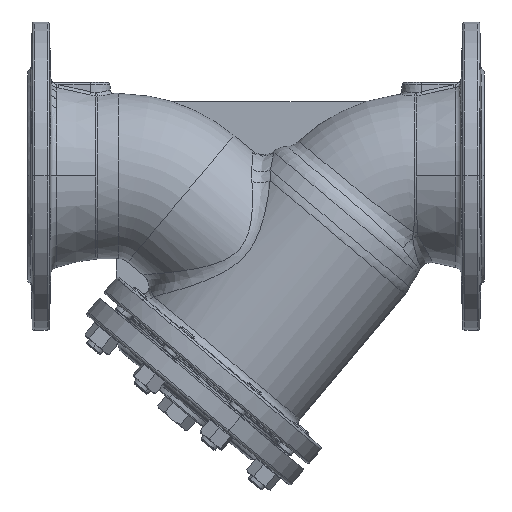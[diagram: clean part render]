
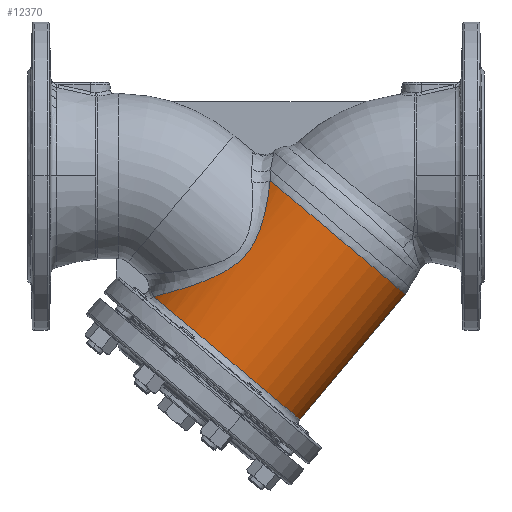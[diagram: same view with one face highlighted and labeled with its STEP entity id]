
A CAD part, top view. The second image highlights one B-rep face of the part: STEP entity #12370.
In plain terms, the highlighted cylindrical face has radius 86 mm (diameter 172 mm), a partial arc.
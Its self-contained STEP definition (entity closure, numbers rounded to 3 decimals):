
#4342 = B_SPLINE_CURVE_WITH_KNOTS ( 'NONE', 3,
 ( #31250, #33126, #33130, #33131, #33132, #33133, #33134, #33135, #33136, #33137, #33138, #33139, #33140, #33141, #33142, #33143, #33144, #33145, #33146, #33147, #33148, #33149, #33150, #33151, #33152, #33153, #33154, #33155, #33156, #33157, #33158, #33159, #33160, #33161, #33162, #33163, #33164, #33165, #33166, #33167, #33168, #33169, #33170, #33171, #33172, #33173, #33174, #33175, #33176, #33177, #33178, #33179, #33180, #33181, #33182, #33183, #33184, #33185 ),
 .UNSPECIFIED., .F., .F.,
 ( 4, 2, 2, 2, 2, 2, 2, 2, 2, 2, 2, 2, 2, 2, 2, 2, 2, 2, 2, 2, 2, 2, 2, 2, 2, 2, 2, 2, 4 ),
 ( 0., 0.011, 0.022, 0.033, 0.036, 0.039, 0.045, 0.05, 0.053, 0.056, 0.067, 0.07, 0.072, 0.078, 0.084, 0.089, 0.1, 0.106, 0.111, 0.123, 0.134, 0.139, 0.142, 0.145, 0.156, 0.167, 0.17, 0.173, 0.178 ),
 .UNSPECIFIED. ) ;
#5209 = CARTESIAN_POINT ( 'NONE',  ( 110.251, -105.6, 28.02 ) ) ;
#5210 = CARTESIAN_POINT ( 'NONE',  ( 238.416, -213.143, 0. ) ) ;
#5211 = CARTESIAN_POINT ( 'NONE',  ( 330.593, -103.291, 0. ) ) ;
#5212 = CARTESIAN_POINT ( 'NONE',  ( 212.413, -4.126, 52.294 ) ) ;
#6773 = EDGE_LOOP ( 'NONE', ( #8521, #8522, #8523, #8524 ) ) ;
#7751 = AXIS2_PLACEMENT_3D ( 'NONE', #15213, #15207, #15211 ) ;
#8521 = ORIENTED_EDGE ( 'NONE', *, *, #13519, .T. ) ;
#8522 = ORIENTED_EDGE ( 'NONE', *, *, #13517, .T. ) ;
#8523 = ORIENTED_EDGE ( 'NONE', *, *, #13512, .T. ) ;
#8524 = ORIENTED_EDGE ( 'NONE', *, *, #13521, .T. ) ;
#12370 = ADVANCED_FACE ( 'NONE', ( #39418 ), #39420, .T. ) ;
#12619 = VERTEX_POINT ( 'NONE', #5209 ) ;
#12620 = VERTEX_POINT ( 'NONE', #5210 ) ;
#12621 = VERTEX_POINT ( 'NONE', #5211 ) ;
#12622 = VERTEX_POINT ( 'NONE', #5212 ) ;
#13512 = EDGE_CURVE ( 'NONE', #12621, #12622, #22313, .T. ) ;
#13517 = EDGE_CURVE ( 'NONE', #12620, #12621, #22306, .T. ) ;
#13519 = EDGE_CURVE ( 'NONE', #12619, #12620, #22322, .T. ) ;
#13521 = EDGE_CURVE ( 'NONE', #12622, #12619, #4342, .T. ) ;
#15207 = DIRECTION ( 'NONE',  ( 0.643, 0.766, 0. ) ) ;
#15211 = DIRECTION ( 'NONE',  ( 0.766, -0.643, 0. ) ) ;
#15213 = CARTESIAN_POINT ( 'NONE',  ( 305., 0., 0. ) ) ;
#15568 = AXIS2_PLACEMENT_3D ( 'NONE', #31304, #31307, #31308 ) ;
#15572 = AXIS2_PLACEMENT_3D ( 'NONE', #30864, #30867, #30868 ) ;
#22306 = LINE ( 'NONE', #31251, #22318 ) ;
#22313 = CIRCLE ( 'NONE', #15572, 86. ) ;
#22318 = VECTOR ( 'NONE', #31252, 1000. ) ;
#22322 = CIRCLE ( 'NONE', #15568, 86. ) ;
#30864 = CARTESIAN_POINT ( 'NONE',  ( 264.714, -48.011, 0. ) ) ;
#30867 = DIRECTION ( 'NONE',  ( -0.643, -0.766, 0. ) ) ;
#30868 = DIRECTION ( 'NONE',  ( -0.766, 0.643, 0. ) ) ;
#31250 = CARTESIAN_POINT ( 'NONE',  ( 212.413, -4.126, 52.294 ) ) ;
#31251 = CARTESIAN_POINT ( 'NONE',  ( 370.88, -55.28, 0. ) ) ;
#31252 = DIRECTION ( 'NONE',  ( 0.643, 0.766, 0. ) ) ;
#31304 = CARTESIAN_POINT ( 'NONE',  ( 172.537, -157.864, 0. ) ) ;
#31307 = DIRECTION ( 'NONE',  ( 0.643, 0.766, 0. ) ) ;
#31308 = DIRECTION ( 'NONE',  ( -0.766, 0.643, 0. ) ) ;
#33126 = CARTESIAN_POINT ( 'NONE',  ( 212.067, -7.158, 54.493 ) ) ;
#33130 = CARTESIAN_POINT ( 'NONE',  ( 211.678, -10.279, 56.504 ) ) ;
#33131 = CARTESIAN_POINT ( 'NONE',  ( 210.777, -16.669, 60.204 ) ) ;
#33132 = CARTESIAN_POINT ( 'NONE',  ( 210.267, -19.937, 61.892 ) ) ;
#33133 = CARTESIAN_POINT ( 'NONE',  ( 209.07, -26.598, 64.972 ) ) ;
#33134 = CARTESIAN_POINT ( 'NONE',  ( 208.385, -29.99, 66.364 ) ) ;
#33135 = CARTESIAN_POINT ( 'NONE',  ( 207.361, -34.296, 67.924 ) ) ;
#33136 = CARTESIAN_POINT ( 'NONE',  ( 207.148, -35.16, 68.226 ) ) ;
#33137 = CARTESIAN_POINT ( 'NONE',  ( 206.705, -36.888, 68.811 ) ) ;
#33138 = CARTESIAN_POINT ( 'NONE',  ( 206.475, -37.751, 69.093 ) ) ;
#33139 = CARTESIAN_POINT ( 'NONE',  ( 205.756, -40.341, 69.91 ) ) ;
#33140 = CARTESIAN_POINT ( 'NONE',  ( 205.239, -42.065, 70.414 ) ) ;
#33141 = CARTESIAN_POINT ( 'NONE',  ( 204.113, -45.505, 71.34 ) ) ;
#33142 = CARTESIAN_POINT ( 'NONE',  ( 203.504, -47.22, 71.763 ) ) ;
#33143 = CARTESIAN_POINT ( 'NONE',  ( 202.505, -49.782, 72.335 ) ) ;
#33144 = CARTESIAN_POINT ( 'NONE',  ( 202.158, -50.634, 72.515 ) ) ;
#33145 = CARTESIAN_POINT ( 'NONE',  ( 201.432, -52.333, 72.854 ) ) ;
#33146 = CARTESIAN_POINT ( 'NONE',  ( 201.053, -53.182, 73.013 ) ) ;
#33147 = CARTESIAN_POINT ( 'NONE',  ( 199.081, -57.384, 73.749 ) ) ;
#33148 = CARTESIAN_POINT ( 'NONE',  ( 197.262, -60.622, 74.15 ) ) ;
#33149 = CARTESIAN_POINT ( 'NONE',  ( 194.605, -64.467, 74.404 ) ) ;
#33150 = CARTESIAN_POINT ( 'NONE',  ( 194.054, -65.226, 74.442 ) ) ;
#33151 = CARTESIAN_POINT ( 'NONE',  ( 192.913, -66.723, 74.493 ) ) ;
#33152 = CARTESIAN_POINT ( 'NONE',  ( 192.323, -67.461, 74.505 ) ) ;
#33153 = CARTESIAN_POINT ( 'NONE',  ( 190.511, -69.617, 74.504 ) ) ;
#33154 = CARTESIAN_POINT ( 'NONE',  ( 189.242, -70.988, 74.452 ) ) ;
#33155 = CARTESIAN_POINT ( 'NONE',  ( 186.589, -73.603, 74.248 ) ) ;
#33156 = CARTESIAN_POINT ( 'NONE',  ( 185.206, -74.847, 74.096 ) ) ;
#33157 = CARTESIAN_POINT ( 'NONE',  ( 182.334, -77.22, 73.695 ) ) ;
#33158 = CARTESIAN_POINT ( 'NONE',  ( 180.841, -78.352, 73.444 ) ) ;
#33159 = CARTESIAN_POINT ( 'NONE',  ( 176.295, -81.544, 72.56 ) ) ;
#33160 = CARTESIAN_POINT ( 'NONE',  ( 173.165, -83.419, 71.796 ) ) ;
#33161 = CARTESIAN_POINT ( 'NONE',  ( 168.384, -85.973, 70.407 ) ) ;
#33162 = CARTESIAN_POINT ( 'NONE',  ( 166.776, -86.78, 69.903 ) ) ;
#33163 = CARTESIAN_POINT ( 'NONE',  ( 163.541, -88.324, 68.813 ) ) ;
#33164 = CARTESIAN_POINT ( 'NONE',  ( 161.911, -89.06, 68.226 ) ) ;
#33165 = CARTESIAN_POINT ( 'NONE',  ( 157.053, -91.158, 66.361 ) ) ;
#33166 = CARTESIAN_POINT ( 'NONE',  ( 153.84, -92.419, 64.973 ) ) ;
#33167 = CARTESIAN_POINT ( 'NONE',  ( 147.499, -94.751, 61.898 ) ) ;
#33168 = CARTESIAN_POINT ( 'NONE',  ( 144.372, -95.82, 60.212 ) ) ;
#33169 = CARTESIAN_POINT ( 'NONE',  ( 139.769, -97.318, 57.438 ) ) ;
#33170 = CARTESIAN_POINT ( 'NONE',  ( 138.25, -97.799, 56.472 ) ) ;
#33171 = CARTESIAN_POINT ( 'NONE',  ( 135.996, -98.497, 54.958 ) ) ;
#33172 = CARTESIAN_POINT ( 'NONE',  ( 135.249, -98.725, 54.442 ) ) ;
#33173 = CARTESIAN_POINT ( 'NONE',  ( 133.764, -99.174, 53.387 ) ) ;
#33174 = CARTESIAN_POINT ( 'NONE',  ( 133.026, -99.395, 52.848 ) ) ;
#33175 = CARTESIAN_POINT ( 'NONE',  ( 129.382, -100.475, 50.11 ) ) ;
#33176 = CARTESIAN_POINT ( 'NONE',  ( 126.595, -101.266, 47.769 ) ) ;
#33177 = CARTESIAN_POINT ( 'NONE',  ( 121.319, -102.722, 42.751 ) ) ;
#33178 = CARTESIAN_POINT ( 'NONE',  ( 118.829, -103.387, 40.074 ) ) ;
#33179 = CARTESIAN_POINT ( 'NONE',  ( 115.943, -104.143, 36.478 ) ) ;
#33180 = CARTESIAN_POINT ( 'NONE',  ( 115.377, -104.29, 35.746 ) ) ;
#33181 = CARTESIAN_POINT ( 'NONE',  ( 114.27, -104.576, 34.256 ) ) ;
#33182 = CARTESIAN_POINT ( 'NONE',  ( 113.727, -104.716, 33.496 ) ) ;
#33183 = CARTESIAN_POINT ( 'NONE',  ( 112.152, -105.12, 31.194 ) ) ;
#33184 = CARTESIAN_POINT ( 'NONE',  ( 111.167, -105.37, 29.625 ) ) ;
#33185 = CARTESIAN_POINT ( 'NONE',  ( 110.251, -105.6, 28.02 ) ) ;
#39418 = FACE_OUTER_BOUND ( 'NONE', #6773, .T. ) ;
#39420 = CYLINDRICAL_SURFACE ( 'NONE', #7751, 86. ) ;
